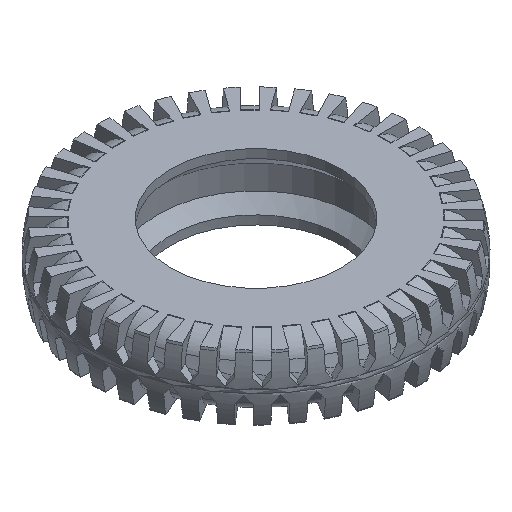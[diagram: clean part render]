
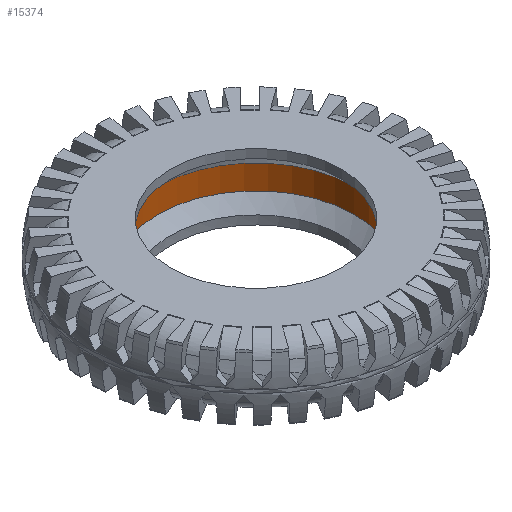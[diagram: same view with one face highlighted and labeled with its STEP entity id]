
A CAD part, isometric view. The second image highlights one B-rep face of the part: STEP entity #15374.
In plain terms, the highlighted cylindrical face has radius 22.5 mm (diameter 45 mm), a full revolution.
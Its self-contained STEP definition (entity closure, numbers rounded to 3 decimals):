
#3783=CYLINDRICAL_SURFACE('',#16229,22.5);
#3788=FACE_BOUND('',#4648,.T.);
#3796=FACE_OUTER_BOUND('',#4647,.T.);
#4647=EDGE_LOOP('',(#10185));
#4648=EDGE_LOOP('',(#10186));
#5504=CIRCLE('',#16228,22.5);
#5505=CIRCLE('',#16230,22.5);
#5958=VERTEX_POINT('',#22304);
#5959=VERTEX_POINT('',#22307);
#7650=EDGE_CURVE('',#5958,#5958,#5504,.T.);
#7651=EDGE_CURVE('',#5959,#5959,#5505,.T.);
#10185=ORIENTED_EDGE('',*,*,#7651,.F.);
#10186=ORIENTED_EDGE('',*,*,#7650,.F.);
#15374=ADVANCED_FACE('',(#3796,#3788),#3783,.F.);
#16228=AXIS2_PLACEMENT_3D('',#22305,#17937,#17938);
#16229=AXIS2_PLACEMENT_3D('',#22306,#17939,#17940);
#16230=AXIS2_PLACEMENT_3D('',#22308,#17941,#17942);
#17937=DIRECTION('center_axis',(0.,0.,-1.));
#17938=DIRECTION('ref_axis',(0.,1.,0.));
#17939=DIRECTION('center_axis',(0.,0.,-1.));
#17940=DIRECTION('ref_axis',(0.,1.,0.));
#17941=DIRECTION('center_axis',(0.,0.,1.));
#17942=DIRECTION('ref_axis',(0.,1.,0.));
#22304=CARTESIAN_POINT('',(0.,-22.5,4.052));
#22305=CARTESIAN_POINT('Origin',(0.,0.,
4.052));
#22306=CARTESIAN_POINT('Origin',(0.,0.,
1.265));
#22307=CARTESIAN_POINT('',(0.,-22.5,-1.518));
#22308=CARTESIAN_POINT('Origin',(0.,0.,
-1.518));
